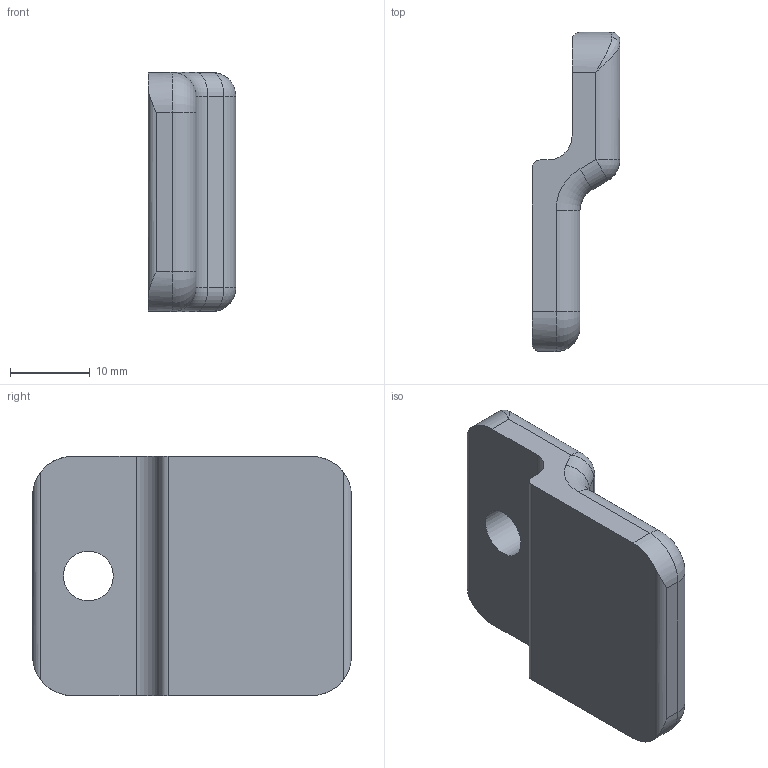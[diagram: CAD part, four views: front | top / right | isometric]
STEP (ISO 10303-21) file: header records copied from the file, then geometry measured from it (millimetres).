
FILE_DESCRIPTION (( 'STEP AP214' ), '1' );
FILE_NAME ('L19155.step', '2024-12-03T16:22:49', ( '' ), ( '' ), 'SwSTEP 2.0', 'SolidWorks 2023', '' );
FILE_SCHEMA (( 'AUTOMOTIVE_DESIGN' ));
Length unit declared in the file: millimetre
Products named in the file (1): L19155
Bounding box: 11 x 40 x 30 mm (x, y, z)
Volume: 7196.5 mm3; surface area: 3231.3 mm2
Topology: 1 solids, 1 shells, 39 faces, 94 edges, 55 vertices
Faces by surface type: cylinder 19, plane 10, torus 6, bspline 2, sphere 2
Full cylindrical faces by diameter (mm): 6.25 x1
Entity records: 1265 total; most frequent: CARTESIAN_POINT 346, DIRECTION 198, ORIENTED_EDGE 180, EDGE_CURVE 90, AXIS2_PLACEMENT_3D 78, VERTEX_POINT 54, LINE 42, VECTOR 42
